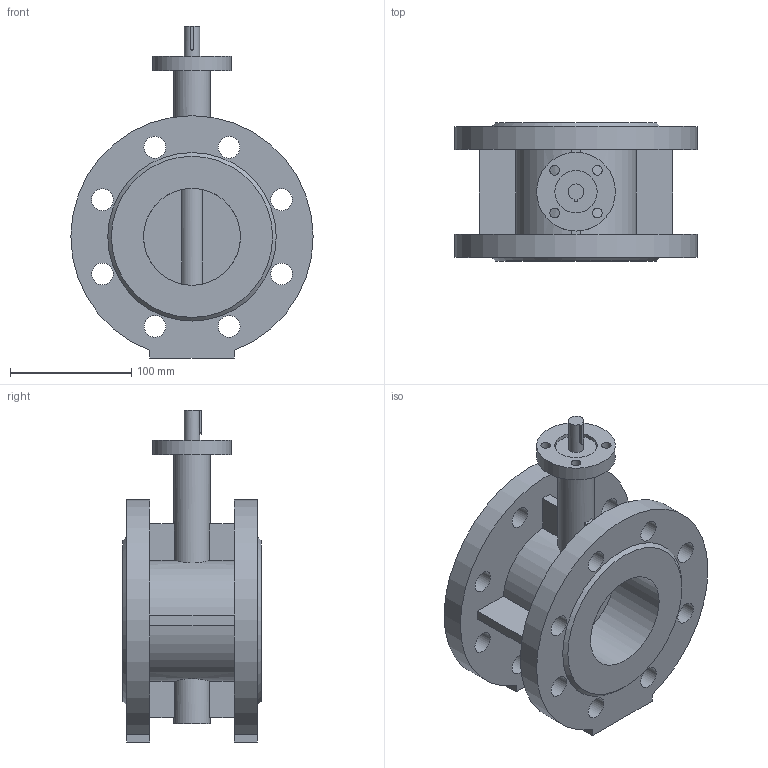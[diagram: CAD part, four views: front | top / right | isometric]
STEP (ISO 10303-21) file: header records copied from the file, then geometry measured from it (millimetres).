
FILE_DESCRIPTION(('STEP AP203'), '1');
FILE_NAME('Çàòâîð 021F.Y DN80 PN10_16 ïîä ÝÏ', '', ('UNSPECIFIED'), ('UNSPECIFIED'), 'ASCON STEP Converter 1.6', 'ASCON Math Kernel', '');
FILE_SCHEMA(('CONFIG_CONTROL_DESIGN'));
Length unit declared in the file: millimetre
Bounding box: 200 x 114 x 274 mm (x, y, z)
Volume: 1424163.2 mm3; surface area: 225590.1 mm2
Topology: 1 solids, 1 shells, 80 faces, 207 edges, 138 vertices
Faces by surface type: plane 42, cylinder 36, cone 2
Full cylindrical faces by diameter (mm): 8 x4, 12.6 x1, 18 x16, 30 x2, 35 x1, 65 x1, 80 x2
Entity records: 3918 total; most frequent: CARTESIAN_POINT 1253, DIRECTION 407, ORIENTED_EDGE 356, EDGE_CURVE 178, AXIS2_PLACEMENT_3D 159, EDGE_LOOP 158, VERTEX_POINT 138, FACE_BOUND 105
